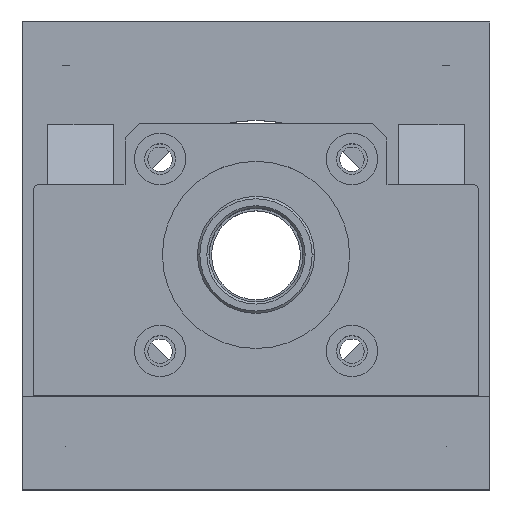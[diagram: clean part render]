
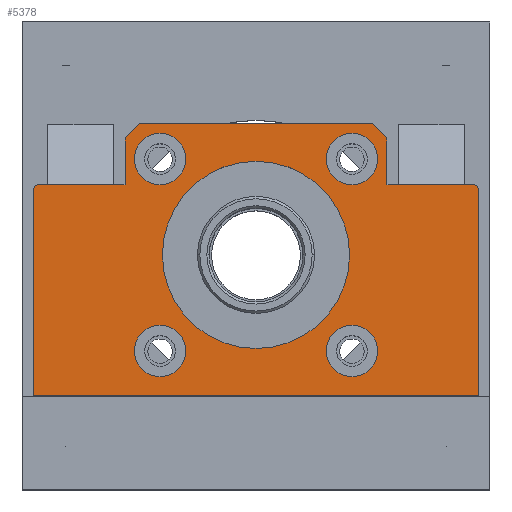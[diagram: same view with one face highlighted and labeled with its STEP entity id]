
A CAD part, top view. The second image highlights one B-rep face of the part: STEP entity #5378.
In plain terms, the highlighted planar face has unit normal (0, 0, 1).
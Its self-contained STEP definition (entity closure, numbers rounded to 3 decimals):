
#3080=DIRECTION('',(1.,0.,0.));
#3081=VECTOR('',#3080,18.5);
#3082=CARTESIAN_POINT('',(-46.5,15.,212.));
#3083=LINE('',#3082,#3081);
#3084=DIRECTION('',(0.,1.,0.));
#3085=VECTOR('',#3084,10.);
#3086=CARTESIAN_POINT('',(-28.,15.,212.));
#3087=LINE('',#3086,#3085);
#3088=DIRECTION('',(0.707,0.707,0.));
#3089=VECTOR('',#3088,4.243);
#3090=CARTESIAN_POINT('',(-28.,25.,212.));
#3091=LINE('',#3090,#3089);
#3092=DIRECTION('',(1.,0.,0.));
#3093=VECTOR('',#3092,50.);
#3094=CARTESIAN_POINT('',(-25.,28.,212.));
#3095=LINE('',#3094,#3093);
#3096=DIRECTION('',(0.707,-0.707,0.));
#3097=VECTOR('',#3096,4.243);
#3098=CARTESIAN_POINT('',(25.,28.,212.));
#3099=LINE('',#3098,#3097);
#3100=DIRECTION('',(0.,-1.,0.));
#3101=VECTOR('',#3100,10.);
#3102=CARTESIAN_POINT('',(28.,25.,212.));
#3103=LINE('',#3102,#3101);
#3104=DIRECTION('',(1.,0.,0.));
#3105=VECTOR('',#3104,18.5);
#3106=CARTESIAN_POINT('',(28.,15.,212.));
#3107=LINE('',#3106,#3105);
#3108=CARTESIAN_POINT('',(46.5,14.,212.));
#3109=DIRECTION('',(0.,0.,-1.));
#3110=DIRECTION('',(0.,1.,0.));
#3111=AXIS2_PLACEMENT_3D('',#3108,#3109,#3110);
#3113=DIRECTION('',(0.,-1.,0.));
#3114=VECTOR('',#3113,44.);
#3115=CARTESIAN_POINT('',(47.5,14.,212.));
#3116=LINE('',#3115,#3114);
#3117=DIRECTION('',(-1.,0.,0.));
#3118=VECTOR('',#3117,95.);
#3119=CARTESIAN_POINT('',(47.5,-30.,212.));
#3120=LINE('',#3119,#3118);
#3121=DIRECTION('',(0.,1.,0.));
#3122=VECTOR('',#3121,44.);
#3123=CARTESIAN_POINT('',(-47.5,-30.,212.));
#3124=LINE('',#3123,#3122);
#3125=CARTESIAN_POINT('',(-46.5,14.,212.));
#3126=DIRECTION('',(0.,0.,-1.));
#3127=DIRECTION('',(-1.,0.,0.));
#3128=AXIS2_PLACEMENT_3D('',#3125,#3126,#3127);
#3130=CARTESIAN_POINT('',(-20.506,-20.506,212.));
#3131=DIRECTION('',(0.,0.,1.));
#3132=DIRECTION('',(-1.,0.,0.));
#3133=AXIS2_PLACEMENT_3D('',#3130,#3131,#3132);
#3135=CARTESIAN_POINT('',(-20.506,-20.506,212.));
#3136=DIRECTION('',(0.,0.,1.));
#3137=DIRECTION('',(1.,0.,0.));
#3138=AXIS2_PLACEMENT_3D('',#3135,#3136,#3137);
#3140=CARTESIAN_POINT('',(-20.506,20.506,212.));
#3141=DIRECTION('',(0.,0.,1.));
#3142=DIRECTION('',(-1.,0.,0.));
#3143=AXIS2_PLACEMENT_3D('',#3140,#3141,#3142);
#3145=CARTESIAN_POINT('',(-20.506,20.506,212.));
#3146=DIRECTION('',(0.,0.,1.));
#3147=DIRECTION('',(1.,0.,0.));
#3148=AXIS2_PLACEMENT_3D('',#3145,#3146,#3147);
#3150=CARTESIAN_POINT('',(20.506,-20.506,212.));
#3151=DIRECTION('',(0.,0.,1.));
#3152=DIRECTION('',(-1.,0.,0.));
#3153=AXIS2_PLACEMENT_3D('',#3150,#3151,#3152);
#3155=CARTESIAN_POINT('',(20.506,-20.506,212.));
#3156=DIRECTION('',(0.,0.,1.));
#3157=DIRECTION('',(1.,0.,0.));
#3158=AXIS2_PLACEMENT_3D('',#3155,#3156,#3157);
#3160=CARTESIAN_POINT('',(0.,0.,212.));
#3161=DIRECTION('',(0.,0.,1.));
#3162=DIRECTION('',(-1.,0.,0.));
#3163=AXIS2_PLACEMENT_3D('',#3160,#3161,#3162);
#3165=CARTESIAN_POINT('',(0.,0.,212.));
#3166=DIRECTION('',(0.,0.,1.));
#3167=DIRECTION('',(1.,0.,0.));
#3168=AXIS2_PLACEMENT_3D('',#3165,#3166,#3167);
#3170=CARTESIAN_POINT('',(20.506,20.506,212.));
#3171=DIRECTION('',(0.,0.,1.));
#3172=DIRECTION('',(-1.,0.,0.));
#3173=AXIS2_PLACEMENT_3D('',#3170,#3171,#3172);
#3175=CARTESIAN_POINT('',(20.506,20.506,212.));
#3176=DIRECTION('',(0.,0.,1.));
#3177=DIRECTION('',(1.,0.,0.));
#3178=AXIS2_PLACEMENT_3D('',#3175,#3176,#3177);
#3939=CARTESIAN_POINT('',(-47.5,-30.,212.));
#3940=VERTEX_POINT('',#3939);
#3941=CARTESIAN_POINT('',(47.5,-30.,212.));
#3942=VERTEX_POINT('',#3941);
#4205=CARTESIAN_POINT('',(47.5,14.,212.));
#4206=VERTEX_POINT('',#4205);
#4207=CARTESIAN_POINT('',(-46.5,15.,212.));
#4208=CARTESIAN_POINT('',(-28.,15.,212.));
#4209=VERTEX_POINT('',#4207);
#4210=VERTEX_POINT('',#4208);
#4211=CARTESIAN_POINT('',(-28.,25.,212.));
#4212=VERTEX_POINT('',#4211);
#4213=CARTESIAN_POINT('',(-25.,28.,212.));
#4214=VERTEX_POINT('',#4213);
#4215=CARTESIAN_POINT('',(25.,28.,212.));
#4216=VERTEX_POINT('',#4215);
#4217=CARTESIAN_POINT('',(28.,25.,212.));
#4218=VERTEX_POINT('',#4217);
#4219=CARTESIAN_POINT('',(28.,15.,212.));
#4220=VERTEX_POINT('',#4219);
#4221=CARTESIAN_POINT('',(46.5,15.,212.));
#4222=VERTEX_POINT('',#4221);
#4223=CARTESIAN_POINT('',(-47.5,14.,212.));
#4224=VERTEX_POINT('',#4223);
#4225=CARTESIAN_POINT('',(-26.006,-20.506,212.));
#4226=CARTESIAN_POINT('',(-15.006,-20.506,212.));
#4227=VERTEX_POINT('',#4225);
#4228=VERTEX_POINT('',#4226);
#4229=CARTESIAN_POINT('',(-26.006,20.506,212.));
#4230=CARTESIAN_POINT('',(-15.006,20.506,212.));
#4231=VERTEX_POINT('',#4229);
#4232=VERTEX_POINT('',#4230);
#4233=CARTESIAN_POINT('',(15.006,-20.506,212.));
#4234=CARTESIAN_POINT('',(26.006,-20.506,212.));
#4235=VERTEX_POINT('',#4233);
#4236=VERTEX_POINT('',#4234);
#4237=CARTESIAN_POINT('',(-20.,0.,212.));
#4238=CARTESIAN_POINT('',(20.,0.,212.));
#4239=VERTEX_POINT('',#4237);
#4240=VERTEX_POINT('',#4238);
#4241=CARTESIAN_POINT('',(15.006,20.506,212.));
#4242=CARTESIAN_POINT('',(26.006,20.506,212.));
#4243=VERTEX_POINT('',#4241);
#4244=VERTEX_POINT('',#4242);
#5319=CARTESIAN_POINT('',(0.,0.,212.));
#5320=DIRECTION('',(0.,0.,1.));
#5321=DIRECTION('',(-1.,0.,0.));
#5322=AXIS2_PLACEMENT_3D('',#5319,#5320,#5321);
#5323=PLANE('',#5322);
#5325=ORIENTED_EDGE('',*,*,#5324,.T.);
#5327=ORIENTED_EDGE('',*,*,#5326,.T.);
#5329=ORIENTED_EDGE('',*,*,#5328,.T.);
#5331=ORIENTED_EDGE('',*,*,#5330,.T.);
#5333=ORIENTED_EDGE('',*,*,#5332,.T.);
#5335=ORIENTED_EDGE('',*,*,#5334,.T.);
#5337=ORIENTED_EDGE('',*,*,#5336,.T.);
#5339=ORIENTED_EDGE('',*,*,#5338,.T.);
#5340=ORIENTED_EDGE('',*,*,#5312,.T.);
#5341=ORIENTED_EDGE('',*,*,#4460,.T.);
#5343=ORIENTED_EDGE('',*,*,#5342,.T.);
#5345=ORIENTED_EDGE('',*,*,#5344,.T.);
#5346=EDGE_LOOP('',(#5325,#5327,#5329,#5331,#5333,#5335,#5337,#5339,#5340,#5341,
#5343,#5345));
#5347=FACE_OUTER_BOUND('',#5346,.F.);
#5349=ORIENTED_EDGE('',*,*,#5348,.T.);
#5351=ORIENTED_EDGE('',*,*,#5350,.T.);
#5352=EDGE_LOOP('',(#5349,#5351));
#5353=FACE_BOUND('',#5352,.F.);
#5355=ORIENTED_EDGE('',*,*,#5354,.T.);
#5357=ORIENTED_EDGE('',*,*,#5356,.T.);
#5358=EDGE_LOOP('',(#5355,#5357));
#5359=FACE_BOUND('',#5358,.F.);
#5361=ORIENTED_EDGE('',*,*,#5360,.T.);
#5363=ORIENTED_EDGE('',*,*,#5362,.T.);
#5364=EDGE_LOOP('',(#5361,#5363));
#5365=FACE_BOUND('',#5364,.F.);
#5367=ORIENTED_EDGE('',*,*,#5366,.T.);
#5369=ORIENTED_EDGE('',*,*,#5368,.T.);
#5370=EDGE_LOOP('',(#5367,#5369));
#5371=FACE_BOUND('',#5370,.F.);
#5373=ORIENTED_EDGE('',*,*,#5372,.T.);
#5375=ORIENTED_EDGE('',*,*,#5374,.T.);
#5376=EDGE_LOOP('',(#5373,#5375));
#5377=FACE_BOUND('',#5376,.F.);
#3112=CIRCLE('',#3111,1.);
#3129=CIRCLE('',#3128,1.);
#3134=CIRCLE('',#3133,5.5);
#3139=CIRCLE('',#3138,5.5);
#3144=CIRCLE('',#3143,5.5);
#3149=CIRCLE('',#3148,5.5);
#3154=CIRCLE('',#3153,5.5);
#3159=CIRCLE('',#3158,5.5);
#3164=CIRCLE('',#3163,20.);
#3169=CIRCLE('',#3168,20.);
#3174=CIRCLE('',#3173,5.5);
#3179=CIRCLE('',#3178,5.5);
#4460=EDGE_CURVE('',#3942,#3940,#3120,.T.);
#5312=EDGE_CURVE('',#4206,#3942,#3116,.T.);
#5324=EDGE_CURVE('',#4209,#4210,#3083,.T.);
#5326=EDGE_CURVE('',#4210,#4212,#3087,.T.);
#5328=EDGE_CURVE('',#4212,#4214,#3091,.T.);
#5330=EDGE_CURVE('',#4214,#4216,#3095,.T.);
#5332=EDGE_CURVE('',#4216,#4218,#3099,.T.);
#5334=EDGE_CURVE('',#4218,#4220,#3103,.T.);
#5336=EDGE_CURVE('',#4220,#4222,#3107,.T.);
#5338=EDGE_CURVE('',#4222,#4206,#3112,.T.);
#5342=EDGE_CURVE('',#3940,#4224,#3124,.T.);
#5344=EDGE_CURVE('',#4224,#4209,#3129,.T.);
#5348=EDGE_CURVE('',#4227,#4228,#3134,.T.);
#5350=EDGE_CURVE('',#4228,#4227,#3139,.T.);
#5354=EDGE_CURVE('',#4231,#4232,#3144,.T.);
#5356=EDGE_CURVE('',#4232,#4231,#3149,.T.);
#5360=EDGE_CURVE('',#4235,#4236,#3154,.T.);
#5362=EDGE_CURVE('',#4236,#4235,#3159,.T.);
#5366=EDGE_CURVE('',#4239,#4240,#3164,.T.);
#5368=EDGE_CURVE('',#4240,#4239,#3169,.T.);
#5372=EDGE_CURVE('',#4243,#4244,#3174,.T.);
#5374=EDGE_CURVE('',#4244,#4243,#3179,.T.);
#5378=ADVANCED_FACE('',(#5347,#5353,#5359,#5365,#5371,#5377),#5323,.T.);
